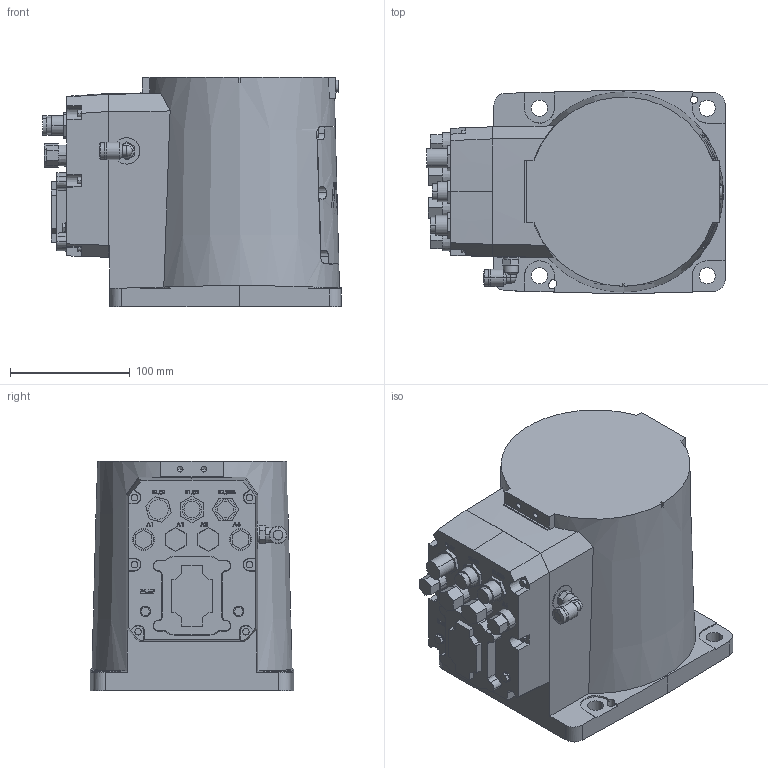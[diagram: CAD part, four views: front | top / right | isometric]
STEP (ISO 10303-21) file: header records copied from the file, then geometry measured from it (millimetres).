
FILE_DESCRIPTION (( 'STEP AP214' ), '1' );
FILE_NAME ('IRB920T_6kg-550-250-CR-STD_OmniCore_rev00_LINK0_CAD.step', '2021-10-28T02:21:48', ( '' ), ( '' ), 'SwSTEP 2.0', 'SolidWorks 2018', '' );
FILE_SCHEMA (( 'AUTOMOTIVE_DESIGN' ));
Length unit declared in the file: millimetre
Products named in the file (1): IRB920T_6kg-550-250-CR-STD_OmniCore_rev00_LINK0_CAD
Bounding box: 249 x 170 x 191.4 mm (x, y, z)
Volume: 5244050.8 mm3; surface area: 220229.3 mm2
Topology: 1 solids, 1 shells, 866 faces, 2270 edges, 1491 vertices
Faces by surface type: plane 509, bspline 189, cylinder 95, cone 72, sphere 1
Entity records: 33423 total; most frequent: CARTESIAN_POINT 13470, ORIENTED_EDGE 4520, DIRECTION 3286, EDGE_CURVE 2260, VERTEX_POINT 1490, VECTOR 1420, LINE 1420, EDGE_LOOP 972
